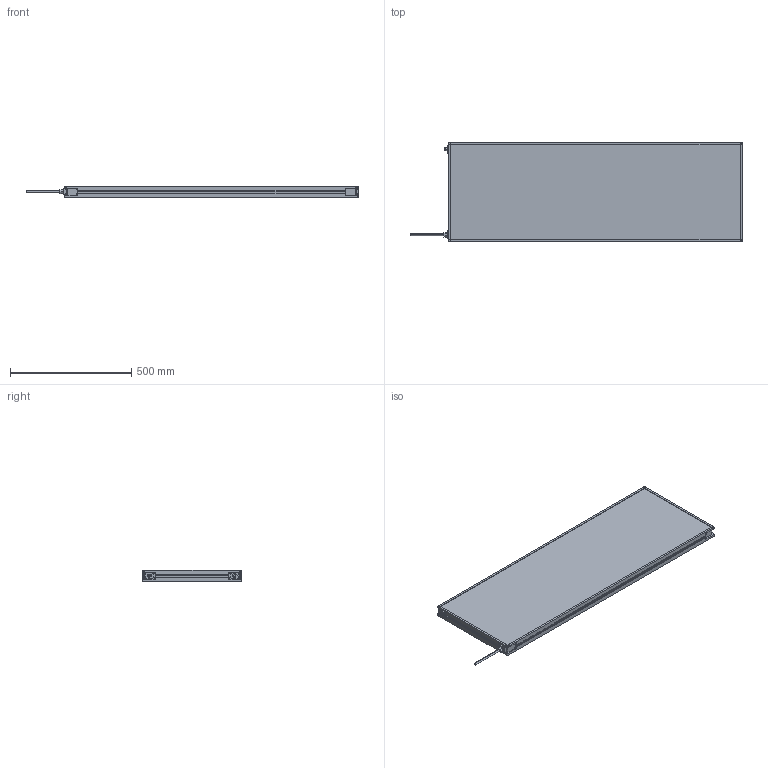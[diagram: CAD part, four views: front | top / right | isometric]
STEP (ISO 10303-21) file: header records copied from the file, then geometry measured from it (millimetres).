
FILE_DESCRIPTION (( 'STEP AP214' ), '1' );
FILE_NAME ('MBACK-xxxx-xxx-M1A2_CLIENT400x1200.STEP', '2022-04-01T11:36:06', ( '' ), ( '' ), 'SwSTEP 2.0', 'SolidWorks 2020', '' );
FILE_SCHEMA (( 'AUTOMOTIVE_DESIGN' ));
Length unit declared in the file: millimetre
Products named in the file (1): MBACK-xxxx-xxx-M1A2_CLIENT400x1200
Bounding box: 1367.4 x 408 x 45.5 mm (x, y, z)
Volume: 20507097.1 mm3; surface area: 1206321.2 mm2
Topology: 1 solids, 1 shells, 470 faces, 1210 edges, 804 vertices
Faces by surface type: plane 265, cylinder 117, bspline 80, cone 8
Entity records: 18046 total; most frequent: CARTESIAN_POINT 6837, ORIENTED_EDGE 2420, DIRECTION 2082, EDGE_CURVE 1210, VERTEX_POINT 804, VECTOR 800, LINE 800, AXIS2_PLACEMENT_3D 641
